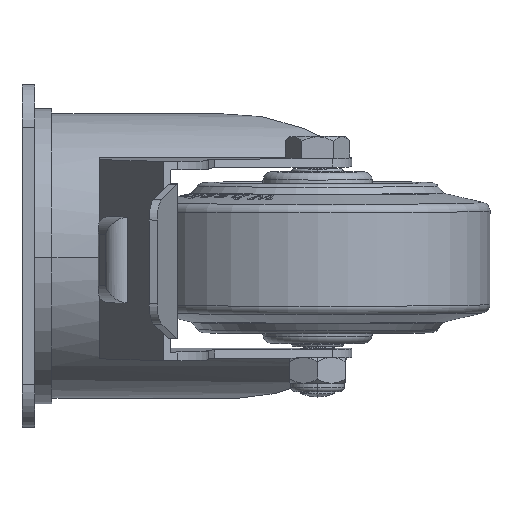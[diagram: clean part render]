
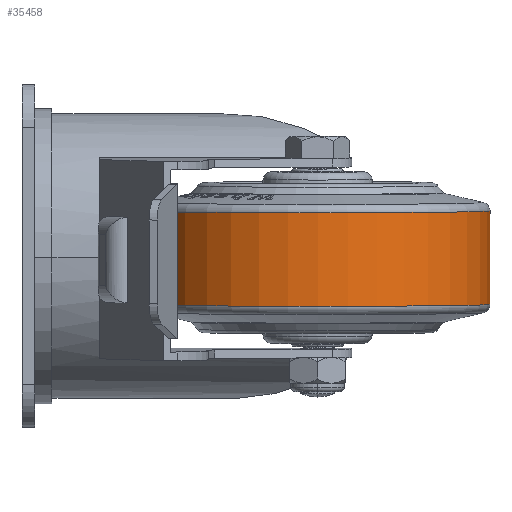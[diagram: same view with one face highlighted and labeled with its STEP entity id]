
A CAD part, left-side view. The second image highlights one B-rep face of the part: STEP entity #35458.
In plain terms, the highlighted cylindrical face has radius 40.25 mm (diameter 80.5 mm), a partial arc.
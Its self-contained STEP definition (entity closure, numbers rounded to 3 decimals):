
#391 = VERTEX_POINT ( 'NONE', #30598 ) ;
#1339 = DIRECTION ( 'NONE',  ( 0., 0., -1. ) ) ;
#2166 = LINE ( 'NONE', #19891, #2515 ) ;
#2515 = VECTOR ( 'NONE', #37692, 1000. ) ;
#3010 = ORIENTED_EDGE ( 'NONE', *, *, #26733, .T. ) ;
#3846 = VERTEX_POINT ( 'NONE', #12549 ) ;
#4393 = LINE ( 'NONE', #27869, #17240 ) ;
#5844 = CIRCLE ( 'NONE', #8301, 40.25 ) ;
#5924 = VERTEX_POINT ( 'NONE', #13121 ) ;
#7238 = EDGE_LOOP ( 'NONE', ( #26867, #17114, #3010, #15104 ) ) ;
#7897 = CARTESIAN_POINT ( 'NONE',  ( 0., 10.912, 0. ) ) ;
#8301 = AXIS2_PLACEMENT_3D ( 'NONE', #27216, #27036, #18594 ) ;
#8409 = AXIS2_PLACEMENT_3D ( 'NONE', #7897, #34626, #13960 ) ;
#10675 = DIRECTION ( 'NONE',  ( 0., -1., 0. ) ) ;
#12549 = CARTESIAN_POINT ( 'NONE',  ( 0., -10.912, -40.25 ) ) ;
#13121 = CARTESIAN_POINT ( 'NONE',  ( 0., 10.912, -40.25 ) ) ;
#13146 = FACE_OUTER_BOUND ( 'NONE', #7238, .T. ) ;
#13960 = DIRECTION ( 'NONE',  ( 0., 0., -1. ) ) ;
#14382 = EDGE_CURVE ( 'NONE', #391, #26057, #4393, .T. ) ;
#15104 = ORIENTED_EDGE ( 'NONE', *, *, #19340, .F. ) ;
#17114 = ORIENTED_EDGE ( 'NONE', *, *, #23793, .T. ) ;
#17240 = VECTOR ( 'NONE', #10675, 1000. ) ;
#18594 = DIRECTION ( 'NONE',  ( 0., 0., -1. ) ) ;
#19164 = AXIS2_PLACEMENT_3D ( 'NONE', #27870, #28056, #1339 ) ;
#19340 = EDGE_CURVE ( 'NONE', #26057, #3846, #5844, .T. ) ;
#19891 = CARTESIAN_POINT ( 'NONE',  ( 0., 0., -40.25 ) ) ;
#23793 = EDGE_CURVE ( 'NONE', #391, #5924, #27922, .T. ) ;
#26057 = VERTEX_POINT ( 'NONE', #33408 ) ;
#26733 = EDGE_CURVE ( 'NONE', #5924, #3846, #2166, .T. ) ;
#26867 = ORIENTED_EDGE ( 'NONE', *, *, #14382, .F. ) ;
#27036 = DIRECTION ( 'NONE',  ( 0., -1., 0. ) ) ;
#27216 = CARTESIAN_POINT ( 'NONE',  ( 0., -10.912, 0. ) ) ;
#27869 = CARTESIAN_POINT ( 'NONE',  ( 0., 0., 40.25 ) ) ;
#27870 = CARTESIAN_POINT ( 'NONE',  ( 0., 0., 0. ) ) ;
#27922 = CIRCLE ( 'NONE', #8409, 40.25 ) ;
#28056 = DIRECTION ( 'NONE',  ( 0., -1., 0. ) ) ;
#30598 = CARTESIAN_POINT ( 'NONE',  ( 0., 10.912, 40.25 ) ) ;
#33408 = CARTESIAN_POINT ( 'NONE',  ( 0., -10.912, 40.25 ) ) ;
#34626 = DIRECTION ( 'NONE',  ( 0., -1., 0. ) ) ;
#35458 = ADVANCED_FACE ( 'NONE', ( #13146 ), #36480, .T. ) ;
#36480 = CYLINDRICAL_SURFACE ( 'NONE', #19164, 40.25 ) ;
#37692 = DIRECTION ( 'NONE',  ( 0., -1., 0. ) ) ;
